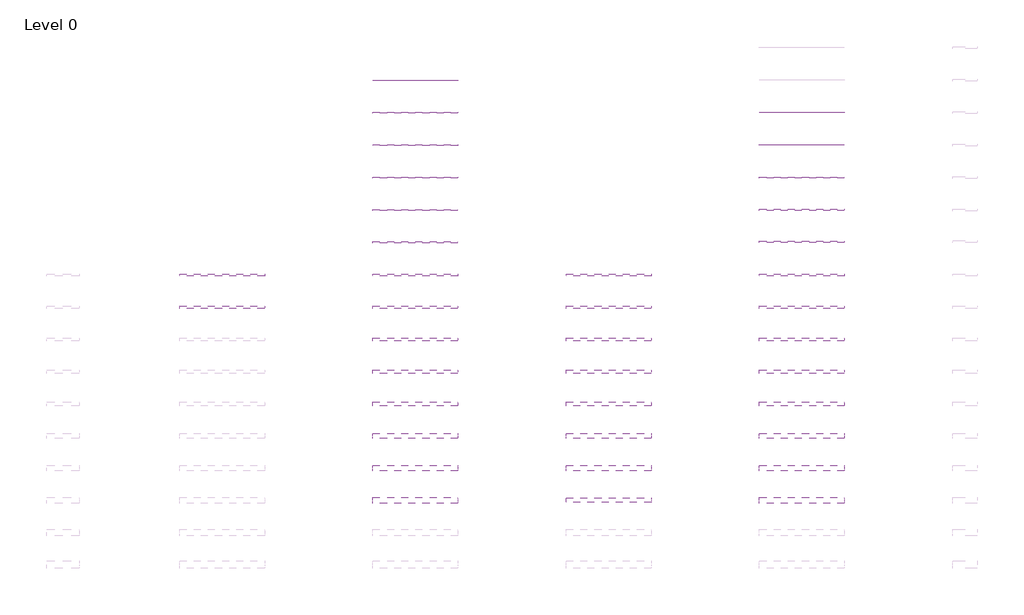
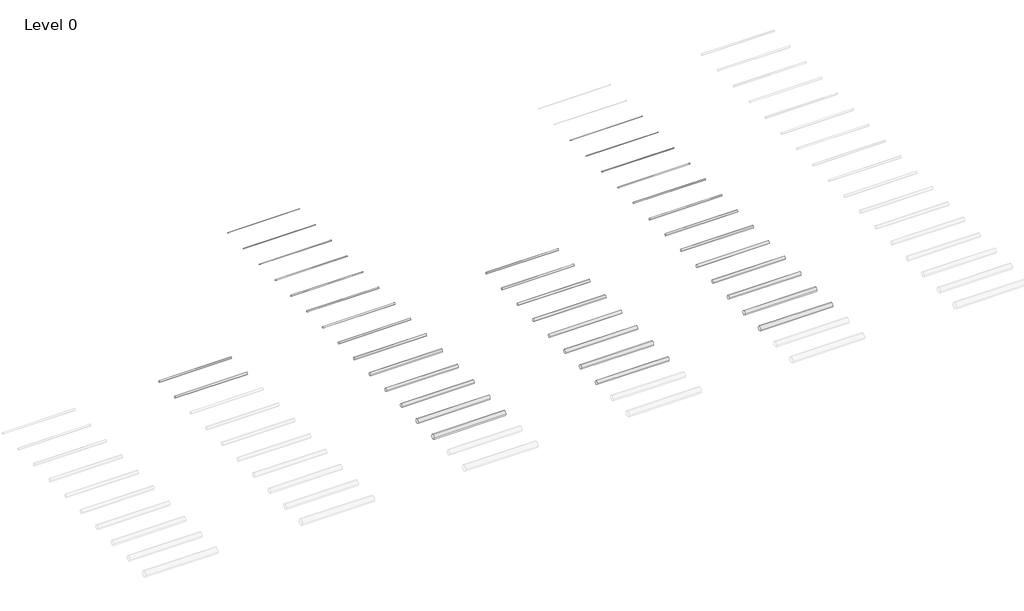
# One storey, part 3 of 4: 37 pipe segments.
"""IFC4 building model written with IfcOpenShell, lengths in millimetres."""

from ifc_helpers import new_model, si_unit, point, frame, frame_2d, origin, place, context, project, spatial, circle_curve, trimmed, segment, composite_curve, outline, extrude, element, save

model = new_model("IFC4")

# Units and contexts
model_context = context("Model", 3, world=origin())
ifc_project = project(units=[si_unit("LENGTHUNIT", "METRE", prefix="MILLI")], contexts=[model_context])

# Site, building, storey
site = spatial("IfcSite", under=ifc_project)
building = spatial("IfcBuilding", under=site)
storey = spatial("IfcBuildingStorey", under=building, Name="Level 0", Elevation=0.0)

# Pipe segments
placement = place(None, origin())
element("IfcPipeSegment", 1, ObjectType="Plumbing_Pipes_Pexgol_Cross-Linked-Polyethylene_Class-12", at=placement, inside=storey, context=model_context, shape_type="SweptSolid", body=[
    extrude(outline(composite_curve([segment(trimmed(circle_curve(frame_2d((-8091.7457436, 2750.0)), 31.5), [point((-8123.2457436, 2750.0))], [point((-8091.7457436, 2781.5))], False, "CARTESIAN"), True, "CONTINUOUS"), segment(trimmed(circle_curve(frame_2d((-8091.7457436, 2750.0)), 31.5), [point((-8091.7457436, 2781.5))], [point((-8060.2457436, 2750.0))], False, "CARTESIAN"), True, "CONTINUOUS"), segment(trimmed(circle_curve(frame_2d((-8091.7457436, 2750.0)), 31.5), [point((-8060.2457436, 2750.0))], [point((-8091.7457436, 2718.5))], False, "CARTESIAN"), True, "CONTINUOUS"), segment(trimmed(circle_curve(frame_2d((-8091.7457436, 2750.0)), 31.5), [point((-8091.7457436, 2718.5))], [point((-8123.2457436, 2750.0))], False, "CARTESIAN"), True, "CONTINUOUS")], self_intersect=False)), frame((11158.0416447, 0.0, 0.0), z_axis=(1.0, 0.0, 0.0), x_axis=(0.0, 1.0, 0.0)), (0.0, 0.0, 1.0), 2640.0),
])
element("IfcPipeSegment", 2, ObjectType="Plumbing_Pipes_Pexgol_Cross-Linked-Polyethylene_Class-12", at=placement, inside=storey, context=model_context, shape_type="SweptSolid", body=[
    extrude(outline(composite_curve([segment(trimmed(circle_curve(frame_2d((-9091.7457436, 2750.0)), 37.5), [point((-9129.2457436, 2750.0))], [point((-9091.7457436, 2787.5))], False, "CARTESIAN"), True, "CONTINUOUS"), segment(trimmed(circle_curve(frame_2d((-9091.7457436, 2750.0)), 37.5), [point((-9091.7457436, 2787.5))], [point((-9054.2457436, 2750.0))], False, "CARTESIAN"), True, "CONTINUOUS"), segment(trimmed(circle_curve(frame_2d((-9091.7457436, 2750.0)), 37.5), [point((-9054.2457436, 2750.0))], [point((-9091.7457436, 2712.5))], False, "CARTESIAN"), True, "CONTINUOUS"), segment(trimmed(circle_curve(frame_2d((-9091.7457436, 2750.0)), 37.5), [point((-9091.7457436, 2712.5))], [point((-9129.2457436, 2750.0))], False, "CARTESIAN"), True, "CONTINUOUS")], self_intersect=False)), frame((11158.0416447, 0.0, 0.0), z_axis=(1.0, 0.0, 0.0), x_axis=(0.0, 1.0, 0.0)), (0.0, 0.0, 1.0), 2640.0),
])
element("IfcPipeSegment", 3, ObjectType="Plumbing_Pipes_Pexgol_Cross-Linked-Polyethylene_Class-15", at=placement, inside=storey, context=model_context, shape_type="SweptSolid", body=[
    extrude(outline(composite_curve([segment(trimmed(circle_curve(frame_2d((-8091.7457436, 2750.0)), 31.5), [point((-8123.2457436, 2750.0))], [point((-8091.7457436, 2781.5))], False, "CARTESIAN"), True, "CONTINUOUS"), segment(trimmed(circle_curve(frame_2d((-8091.7457436, 2750.0)), 31.5), [point((-8091.7457436, 2781.5))], [point((-8060.2457436, 2750.0))], False, "CARTESIAN"), True, "CONTINUOUS"), segment(trimmed(circle_curve(frame_2d((-8091.7457436, 2750.0)), 31.5), [point((-8060.2457436, 2750.0))], [point((-8091.7457436, 2718.5))], False, "CARTESIAN"), True, "CONTINUOUS"), segment(trimmed(circle_curve(frame_2d((-8091.7457436, 2750.0)), 31.5), [point((-8091.7457436, 2718.5))], [point((-8123.2457436, 2750.0))], False, "CARTESIAN"), True, "CONTINUOUS")], self_intersect=False)), frame((17158.0416447, 0.0, 0.0), z_axis=(1.0, 0.0, 0.0), x_axis=(0.0, 1.0, 0.0)), (0.0, 0.0, 1.0), 2640.0),
])
element("IfcPipeSegment", 4, ObjectType="Plumbing_Pipes_Pexgol_Cross-Linked-Polyethylene_Class-15", at=placement, inside=storey, context=model_context, shape_type="SweptSolid", body=[
    extrude(outline(composite_curve([segment(trimmed(circle_curve(frame_2d((-9091.7457436, 2750.0)), 37.5), [point((-9129.2457436, 2750.0))], [point((-9091.7457436, 2787.5))], False, "CARTESIAN"), True, "CONTINUOUS"), segment(trimmed(circle_curve(frame_2d((-9091.7457436, 2750.0)), 37.5), [point((-9091.7457436, 2787.5))], [point((-9054.2457436, 2750.0))], False, "CARTESIAN"), True, "CONTINUOUS"), segment(trimmed(circle_curve(frame_2d((-9091.7457436, 2750.0)), 37.5), [point((-9054.2457436, 2750.0))], [point((-9091.7457436, 2712.5))], False, "CARTESIAN"), True, "CONTINUOUS"), segment(trimmed(circle_curve(frame_2d((-9091.7457436, 2750.0)), 37.5), [point((-9091.7457436, 2712.5))], [point((-9129.2457436, 2750.0))], False, "CARTESIAN"), True, "CONTINUOUS")], self_intersect=False)), frame((17158.0416447, 0.0, 0.0), z_axis=(1.0, 0.0, 0.0), x_axis=(0.0, 1.0, 0.0)), (0.0, 0.0, 1.0), 2640.0),
])
element("IfcPipeSegment", 5, ObjectType="Plumbing_Pipes_Pexgol_Cross-Linked-Polyethylene_Class-15", at=placement, inside=storey, context=model_context, shape_type="SweptSolid", body=[
    extrude(outline(composite_curve([segment(trimmed(circle_curve(frame_2d((-10091.7457436, 2750.0)), 45.0), [point((-10136.7457436, 2750.0))], [point((-10091.7457436, 2795.0))], False, "CARTESIAN"), True, "CONTINUOUS"), segment(trimmed(circle_curve(frame_2d((-10091.7457436, 2750.0)), 45.0), [point((-10091.7457436, 2795.0))], [point((-10046.7457436, 2750.0))], False, "CARTESIAN"), True, "CONTINUOUS"), segment(trimmed(circle_curve(frame_2d((-10091.7457436, 2750.0)), 45.0), [point((-10046.7457436, 2750.0))], [point((-10091.7457436, 2705.0))], False, "CARTESIAN"), True, "CONTINUOUS"), segment(trimmed(circle_curve(frame_2d((-10091.7457436, 2750.0)), 45.0), [point((-10091.7457436, 2705.0))], [point((-10136.7457436, 2750.0))], False, "CARTESIAN"), True, "CONTINUOUS")], self_intersect=False)), frame((17158.0416447, 0.0, 0.0), z_axis=(1.0, 0.0, 0.0), x_axis=(0.0, 1.0, 0.0)), (0.0, 0.0, 1.0), 2640.0),
])
element("IfcPipeSegment", 6, ObjectType="Plumbing_Pipes_Pexgol_Cross-Linked-Polyethylene_Class-15", at=placement, inside=storey, context=model_context, shape_type="SweptSolid", body=[
    extrude(outline(composite_curve([segment(trimmed(circle_curve(frame_2d((-11091.7457436, 2750.0)), 55.0), [point((-11146.7457436, 2750.0))], [point((-11091.7457436, 2805.0))], False, "CARTESIAN"), True, "CONTINUOUS"), segment(trimmed(circle_curve(frame_2d((-11091.7457436, 2750.0)), 55.0), [point((-11091.7457436, 2805.0))], [point((-11036.7457436, 2750.0))], False, "CARTESIAN"), True, "CONTINUOUS"), segment(trimmed(circle_curve(frame_2d((-11091.7457436, 2750.0)), 55.0), [point((-11036.7457436, 2750.0))], [point((-11091.7457436, 2695.0))], False, "CARTESIAN"), True, "CONTINUOUS"), segment(trimmed(circle_curve(frame_2d((-11091.7457436, 2750.0)), 55.0), [point((-11091.7457436, 2695.0))], [point((-11146.7457436, 2750.0))], False, "CARTESIAN"), True, "CONTINUOUS")], self_intersect=False)), frame((17158.0416447, 0.0, 0.0), z_axis=(1.0, 0.0, 0.0), x_axis=(0.0, 1.0, 0.0)), (0.0, 0.0, 1.0), 2640.0),
])
element("IfcPipeSegment", 7, ObjectType="Plumbing_Pipes_Pexgol_Cross-Linked-Polyethylene_Class-15", at=placement, inside=storey, context=model_context, shape_type="SweptSolid", body=[
    extrude(outline(composite_curve([segment(trimmed(circle_curve(frame_2d((-12091.7457436, 2750.0)), 62.5), [point((-12154.2457436, 2750.0))], [point((-12091.7457436, 2812.5))], False, "CARTESIAN"), True, "CONTINUOUS"), segment(trimmed(circle_curve(frame_2d((-12091.7457436, 2750.0)), 62.5), [point((-12091.7457436, 2812.5))], [point((-12029.2457436, 2750.0))], False, "CARTESIAN"), True, "CONTINUOUS"), segment(trimmed(circle_curve(frame_2d((-12091.7457436, 2750.0)), 62.5), [point((-12029.2457436, 2750.0))], [point((-12091.7457436, 2687.5))], False, "CARTESIAN"), True, "CONTINUOUS"), segment(trimmed(circle_curve(frame_2d((-12091.7457436, 2750.0)), 62.5), [point((-12091.7457436, 2687.5))], [point((-12154.2457436, 2750.0))], False, "CARTESIAN"), True, "CONTINUOUS")], self_intersect=False)), frame((17158.0416447, 0.0, 0.0), z_axis=(1.0, 0.0, 0.0), x_axis=(0.0, 1.0, 0.0)), (0.0, 0.0, 1.0), 2640.0),
])
element("IfcPipeSegment", 8, ObjectType="Plumbing_Pipes_Pexgol_Cross-Linked-Polyethylene_Class-15", at=placement, inside=storey, context=model_context, shape_type="SweptSolid", body=[
    extrude(outline(composite_curve([segment(trimmed(circle_curve(frame_2d((-13091.7457436, 2750.0)), 70.0), [point((-13161.7457436, 2750.0))], [point((-13091.7457436, 2820.0))], False, "CARTESIAN"), True, "CONTINUOUS"), segment(trimmed(circle_curve(frame_2d((-13091.7457436, 2750.0)), 70.0), [point((-13091.7457436, 2820.0))], [point((-13021.7457436, 2750.0))], False, "CARTESIAN"), True, "CONTINUOUS"), segment(trimmed(circle_curve(frame_2d((-13091.7457436, 2750.0)), 70.0), [point((-13021.7457436, 2750.0))], [point((-13091.7457436, 2680.0))], False, "CARTESIAN"), True, "CONTINUOUS"), segment(trimmed(circle_curve(frame_2d((-13091.7457436, 2750.0)), 70.0), [point((-13091.7457436, 2680.0))], [point((-13161.7457436, 2750.0))], False, "CARTESIAN"), True, "CONTINUOUS")], self_intersect=False)), frame((17158.0416447, 0.0, 0.0), z_axis=(1.0, 0.0, 0.0), x_axis=(0.0, 1.0, 0.0)), (0.0, 0.0, 1.0), 2640.0),
])
element("IfcPipeSegment", 9, ObjectType="Plumbing_Pipes_Pexgol_Cross-Linked-Polyethylene_Class-15", at=placement, inside=storey, context=model_context, shape_type="SweptSolid", body=[
    extrude(outline(composite_curve([segment(trimmed(circle_curve(frame_2d((-14091.7457436, 2750.0)), 80.0), [point((-14171.7457436, 2750.0))], [point((-14091.7457436, 2830.0))], False, "CARTESIAN"), True, "CONTINUOUS"), segment(trimmed(circle_curve(frame_2d((-14091.7457436, 2750.0)), 80.0), [point((-14091.7457436, 2830.0))], [point((-14011.7457436, 2750.0))], False, "CARTESIAN"), True, "CONTINUOUS"), segment(trimmed(circle_curve(frame_2d((-14091.7457436, 2750.0)), 80.0), [point((-14011.7457436, 2750.0))], [point((-14091.7457436, 2670.0))], False, "CARTESIAN"), True, "CONTINUOUS"), segment(trimmed(circle_curve(frame_2d((-14091.7457436, 2750.0)), 80.0), [point((-14091.7457436, 2670.0))], [point((-14171.7457436, 2750.0))], False, "CARTESIAN"), True, "CONTINUOUS")], self_intersect=False)), frame((17158.0416447, 0.0, 0.0), z_axis=(1.0, 0.0, 0.0), x_axis=(0.0, 1.0, 0.0)), (0.0, 0.0, 1.0), 2640.0),
])
element("IfcPipeSegment", 10, ObjectType="Plumbing_Pipes_Pexgol_Cross-Linked-Polyethylene_Class-15", at=placement, inside=storey, context=model_context, shape_type="SweptSolid", body=[
    extrude(outline(composite_curve([segment(trimmed(circle_curve(frame_2d((-15091.7457436, 2750.0)), 90.0), [point((-15181.7457436, 2750.0))], [point((-15091.7457436, 2840.0))], False, "CARTESIAN"), True, "CONTINUOUS"), segment(trimmed(circle_curve(frame_2d((-15091.7457436, 2750.0)), 90.0), [point((-15091.7457436, 2840.0))], [point((-15001.7457436, 2750.0))], False, "CARTESIAN"), True, "CONTINUOUS"), segment(trimmed(circle_curve(frame_2d((-15091.7457436, 2750.0)), 90.0), [point((-15001.7457436, 2750.0))], [point((-15091.7457436, 2660.0))], False, "CARTESIAN"), True, "CONTINUOUS"), segment(trimmed(circle_curve(frame_2d((-15091.7457436, 2750.0)), 90.0), [point((-15091.7457436, 2660.0))], [point((-15181.7457436, 2750.0))], False, "CARTESIAN"), True, "CONTINUOUS")], self_intersect=False)), frame((17158.0416447, 0.0, 0.0), z_axis=(1.0, 0.0, 0.0), x_axis=(0.0, 1.0, 0.0)), (0.0, 0.0, 1.0), 2640.0),
])
element("IfcPipeSegment", 11, ObjectType="Plumbing_Pipes_Pexgol_Cross-Linked-Polyethylene_Class-19", at=placement, inside=storey, context=model_context, shape_type="SweptSolid", body=[
    extrude(outline(composite_curve([segment(trimmed(circle_curve(frame_2d((-8091.7457436, 2750.0)), 31.5), [point((-8123.2457436, 2750.0))], [point((-8091.7457436, 2781.5))], False, "CARTESIAN"), True, "CONTINUOUS"), segment(trimmed(circle_curve(frame_2d((-8091.7457436, 2750.0)), 31.5), [point((-8091.7457436, 2781.5))], [point((-8060.2457436, 2750.0))], False, "CARTESIAN"), True, "CONTINUOUS"), segment(trimmed(circle_curve(frame_2d((-8091.7457436, 2750.0)), 31.5), [point((-8060.2457436, 2750.0))], [point((-8091.7457436, 2718.5))], False, "CARTESIAN"), True, "CONTINUOUS"), segment(trimmed(circle_curve(frame_2d((-8091.7457436, 2750.0)), 31.5), [point((-8091.7457436, 2718.5))], [point((-8123.2457436, 2750.0))], False, "CARTESIAN"), True, "CONTINUOUS")], self_intersect=False)), frame((23158.0416447, 0.0, 0.0), z_axis=(1.0, 0.0, 0.0), x_axis=(0.0, 1.0, 0.0)), (0.0, 0.0, 1.0), 2640.0),
])
element("IfcPipeSegment", 12, ObjectType="Plumbing_Pipes_Pexgol_Cross-Linked-Polyethylene_Class-19", at=placement, inside=storey, context=model_context, shape_type="SweptSolid", body=[
    extrude(outline(composite_curve([segment(trimmed(circle_curve(frame_2d((-9091.7457436, 2750.0)), 37.5), [point((-9129.2457436, 2750.0))], [point((-9091.7457436, 2787.5))], False, "CARTESIAN"), True, "CONTINUOUS"), segment(trimmed(circle_curve(frame_2d((-9091.7457436, 2750.0)), 37.5), [point((-9091.7457436, 2787.5))], [point((-9054.2457436, 2750.0))], False, "CARTESIAN"), True, "CONTINUOUS"), segment(trimmed(circle_curve(frame_2d((-9091.7457436, 2750.0)), 37.5), [point((-9054.2457436, 2750.0))], [point((-9091.7457436, 2712.5))], False, "CARTESIAN"), True, "CONTINUOUS"), segment(trimmed(circle_curve(frame_2d((-9091.7457436, 2750.0)), 37.5), [point((-9091.7457436, 2712.5))], [point((-9129.2457436, 2750.0))], False, "CARTESIAN"), True, "CONTINUOUS")], self_intersect=False)), frame((23158.0416447, 0.0, 0.0), z_axis=(1.0, 0.0, 0.0), x_axis=(0.0, 1.0, 0.0)), (0.0, 0.0, 1.0), 2640.0),
])
element("IfcPipeSegment", 13, ObjectType="Plumbing_Pipes_Pexgol_Cross-Linked-Polyethylene_Class-19", at=placement, inside=storey, context=model_context, shape_type="SweptSolid", body=[
    extrude(outline(composite_curve([segment(trimmed(circle_curve(frame_2d((-10091.7457436, 2750.0)), 45.0), [point((-10136.7457436, 2750.0))], [point((-10091.7457436, 2795.0))], False, "CARTESIAN"), True, "CONTINUOUS"), segment(trimmed(circle_curve(frame_2d((-10091.7457436, 2750.0)), 45.0), [point((-10091.7457436, 2795.0))], [point((-10046.7457436, 2750.0))], False, "CARTESIAN"), True, "CONTINUOUS"), segment(trimmed(circle_curve(frame_2d((-10091.7457436, 2750.0)), 45.0), [point((-10046.7457436, 2750.0))], [point((-10091.7457436, 2705.0))], False, "CARTESIAN"), True, "CONTINUOUS"), segment(trimmed(circle_curve(frame_2d((-10091.7457436, 2750.0)), 45.0), [point((-10091.7457436, 2705.0))], [point((-10136.7457436, 2750.0))], False, "CARTESIAN"), True, "CONTINUOUS")], self_intersect=False)), frame((23158.0416447, 0.0, 0.0), z_axis=(1.0, 0.0, 0.0), x_axis=(0.0, 1.0, 0.0)), (0.0, 0.0, 1.0), 2640.0),
])
element("IfcPipeSegment", 14, ObjectType="Plumbing_Pipes_Pexgol_Cross-Linked-Polyethylene_Class-19", at=placement, inside=storey, context=model_context, shape_type="SweptSolid", body=[
    extrude(outline(composite_curve([segment(trimmed(circle_curve(frame_2d((-11091.7457436, 2750.0)), 55.0), [point((-11146.7457436, 2750.0))], [point((-11091.7457436, 2805.0))], False, "CARTESIAN"), True, "CONTINUOUS"), segment(trimmed(circle_curve(frame_2d((-11091.7457436, 2750.0)), 55.0), [point((-11091.7457436, 2805.0))], [point((-11036.7457436, 2750.0))], False, "CARTESIAN"), True, "CONTINUOUS"), segment(trimmed(circle_curve(frame_2d((-11091.7457436, 2750.0)), 55.0), [point((-11036.7457436, 2750.0))], [point((-11091.7457436, 2695.0))], False, "CARTESIAN"), True, "CONTINUOUS"), segment(trimmed(circle_curve(frame_2d((-11091.7457436, 2750.0)), 55.0), [point((-11091.7457436, 2695.0))], [point((-11146.7457436, 2750.0))], False, "CARTESIAN"), True, "CONTINUOUS")], self_intersect=False)), frame((23158.0416447, 0.0, 0.0), z_axis=(1.0, 0.0, 0.0), x_axis=(0.0, 1.0, 0.0)), (0.0, 0.0, 1.0), 2640.0),
])
element("IfcPipeSegment", 15, ObjectType="Plumbing_Pipes_Pexgol_Cross-Linked-Polyethylene_Class-19", at=placement, inside=storey, context=model_context, shape_type="SweptSolid", body=[
    extrude(outline(composite_curve([segment(trimmed(circle_curve(frame_2d((-12091.7457436, 2750.0)), 62.5), [point((-12154.2457436, 2750.0))], [point((-12091.7457436, 2812.5))], False, "CARTESIAN"), True, "CONTINUOUS"), segment(trimmed(circle_curve(frame_2d((-12091.7457436, 2750.0)), 62.5), [point((-12091.7457436, 2812.5))], [point((-12029.2457436, 2750.0))], False, "CARTESIAN"), True, "CONTINUOUS"), segment(trimmed(circle_curve(frame_2d((-12091.7457436, 2750.0)), 62.5), [point((-12029.2457436, 2750.0))], [point((-12091.7457436, 2687.5))], False, "CARTESIAN"), True, "CONTINUOUS"), segment(trimmed(circle_curve(frame_2d((-12091.7457436, 2750.0)), 62.5), [point((-12091.7457436, 2687.5))], [point((-12154.2457436, 2750.0))], False, "CARTESIAN"), True, "CONTINUOUS")], self_intersect=False)), frame((23158.0416447, 0.0, 0.0), z_axis=(1.0, 0.0, 0.0), x_axis=(0.0, 1.0, 0.0)), (0.0, 0.0, 1.0), 2640.0),
])
element("IfcPipeSegment", 16, ObjectType="Plumbing_Pipes_Pexgol_Cross-Linked-Polyethylene_Class-19", at=placement, inside=storey, context=model_context, shape_type="SweptSolid", body=[
    extrude(outline(composite_curve([segment(trimmed(circle_curve(frame_2d((-13091.7457436, 2750.0)), 70.0), [point((-13161.7457436, 2750.0))], [point((-13091.7457436, 2820.0))], False, "CARTESIAN"), True, "CONTINUOUS"), segment(trimmed(circle_curve(frame_2d((-13091.7457436, 2750.0)), 70.0), [point((-13091.7457436, 2820.0))], [point((-13021.7457436, 2750.0))], False, "CARTESIAN"), True, "CONTINUOUS"), segment(trimmed(circle_curve(frame_2d((-13091.7457436, 2750.0)), 70.0), [point((-13021.7457436, 2750.0))], [point((-13091.7457436, 2680.0))], False, "CARTESIAN"), True, "CONTINUOUS"), segment(trimmed(circle_curve(frame_2d((-13091.7457436, 2750.0)), 70.0), [point((-13091.7457436, 2680.0))], [point((-13161.7457436, 2750.0))], False, "CARTESIAN"), True, "CONTINUOUS")], self_intersect=False)), frame((23158.0416447, 0.0, 0.0), z_axis=(1.0, 0.0, 0.0), x_axis=(0.0, 1.0, 0.0)), (0.0, 0.0, 1.0), 2640.0),
])
element("IfcPipeSegment", 17, ObjectType="Plumbing_Pipes_Pexgol_Cross-Linked-Polyethylene_Class-19", at=placement, inside=storey, context=model_context, shape_type="SweptSolid", body=[
    extrude(outline(composite_curve([segment(trimmed(circle_curve(frame_2d((-14091.7457436, 2750.0)), 80.0), [point((-14171.7457436, 2750.0))], [point((-14091.7457436, 2830.0))], False, "CARTESIAN"), True, "CONTINUOUS"), segment(trimmed(circle_curve(frame_2d((-14091.7457436, 2750.0)), 80.0), [point((-14091.7457436, 2830.0))], [point((-14011.7457436, 2750.0))], False, "CARTESIAN"), True, "CONTINUOUS"), segment(trimmed(circle_curve(frame_2d((-14091.7457436, 2750.0)), 80.0), [point((-14011.7457436, 2750.0))], [point((-14091.7457436, 2670.0))], False, "CARTESIAN"), True, "CONTINUOUS"), segment(trimmed(circle_curve(frame_2d((-14091.7457436, 2750.0)), 80.0), [point((-14091.7457436, 2670.0))], [point((-14171.7457436, 2750.0))], False, "CARTESIAN"), True, "CONTINUOUS")], self_intersect=False)), frame((23158.0416447, 0.0, 0.0), z_axis=(1.0, 0.0, 0.0), x_axis=(0.0, 1.0, 0.0)), (0.0, 0.0, 1.0), 2640.0),
])
element("IfcPipeSegment", 18, ObjectType="Plumbing_Pipes_Pexgol_Cross-Linked-Polyethylene_Class-19", at=placement, inside=storey, context=model_context, shape_type="SweptSolid", body=[
    extrude(outline(composite_curve([segment(trimmed(circle_curve(frame_2d((-15091.7457436, 2750.0)), 69.9), [point((-15161.6457436, 2750.0))], [point((-15091.7457436, 2819.9))], False, "CARTESIAN"), True, "CONTINUOUS"), segment(trimmed(circle_curve(frame_2d((-15091.7457436, 2750.0)), 69.9), [point((-15091.7457436, 2819.9))], [point((-15021.8457436, 2750.0))], False, "CARTESIAN"), True, "CONTINUOUS"), segment(trimmed(circle_curve(frame_2d((-15091.7457436, 2750.0)), 69.9), [point((-15021.8457436, 2750.0))], [point((-15091.7457436, 2680.1))], False, "CARTESIAN"), True, "CONTINUOUS"), segment(trimmed(circle_curve(frame_2d((-15091.7457436, 2750.0)), 69.9), [point((-15091.7457436, 2680.1))], [point((-15161.6457436, 2750.0))], False, "CARTESIAN"), True, "CONTINUOUS")], self_intersect=False)), frame((23158.0416447, 0.0, 0.0), z_axis=(1.0, 0.0, 0.0), x_axis=(0.0, 1.0, 0.0)), (0.0, 0.0, 1.0), 2640.0),
])
element("IfcPipeSegment", 19, ObjectType="Plumbing_Pipes_Pexgol_Cross-Linked-Polyethylene_Class-15", at=placement, inside=storey, context=model_context, shape_type="SweptSolid", body=[
    extrude(outline(composite_curve([segment(trimmed(circle_curve(frame_2d((-7081.7457436, 2750.0)), 25.0), [point((-7106.7457436, 2750.0))], [point((-7081.7457436, 2775.0))], False, "CARTESIAN"), True, "CONTINUOUS"), segment(trimmed(circle_curve(frame_2d((-7081.7457436, 2750.0)), 25.0), [point((-7081.7457436, 2775.0))], [point((-7056.7457436, 2750.0))], False, "CARTESIAN"), True, "CONTINUOUS"), segment(trimmed(circle_curve(frame_2d((-7081.7457436, 2750.0)), 25.0), [point((-7056.7457436, 2750.0))], [point((-7081.7457436, 2725.0))], False, "CARTESIAN"), True, "CONTINUOUS"), segment(trimmed(circle_curve(frame_2d((-7081.7457436, 2750.0)), 25.0), [point((-7081.7457436, 2725.0))], [point((-7106.7457436, 2750.0))], False, "CARTESIAN"), True, "CONTINUOUS")], self_intersect=False)), frame((17158.0416447, 0.0, 0.0), z_axis=(1.0, 0.0, 0.0), x_axis=(0.0, 1.0, 0.0)), (0.0, 0.0, 1.0), 2640.0),
])
element("IfcPipeSegment", 20, ObjectType="Plumbing_Pipes_Pexgol_Cross-Linked-Polyethylene_Class-15", at=placement, inside=storey, context=model_context, shape_type="SweptSolid", body=[
    extrude(outline(composite_curve([segment(trimmed(circle_curve(frame_2d((-6074.2457436, 2750.0)), 20.0), [point((-6094.2457436, 2750.0))], [point((-6074.2457436, 2770.0))], False, "CARTESIAN"), True, "CONTINUOUS"), segment(trimmed(circle_curve(frame_2d((-6074.2457436, 2750.0)), 20.0), [point((-6074.2457436, 2770.0))], [point((-6054.2457436, 2750.0))], False, "CARTESIAN"), True, "CONTINUOUS"), segment(trimmed(circle_curve(frame_2d((-6074.2457436, 2750.0)), 20.0), [point((-6054.2457436, 2750.0))], [point((-6074.2457436, 2730.0))], False, "CARTESIAN"), True, "CONTINUOUS"), segment(trimmed(circle_curve(frame_2d((-6074.2457436, 2750.0)), 20.0), [point((-6074.2457436, 2730.0))], [point((-6094.2457436, 2750.0))], False, "CARTESIAN"), True, "CONTINUOUS")], self_intersect=False)), frame((17158.0416447, 0.0, 0.0), z_axis=(1.0, 0.0, 0.0), x_axis=(0.0, 1.0, 0.0)), (0.0, 0.0, 1.0), 2640.0),
])
element("IfcPipeSegment", 21, ObjectType="Plumbing_Pipes_Pexgol_Cross-Linked-Polyethylene_Class-15", at=placement, inside=storey, context=model_context, shape_type="SweptSolid", body=[
    extrude(outline(composite_curve([segment(trimmed(circle_curve(frame_2d((-5066.7457436, 2750.0)), 16.0), [point((-5082.7457436, 2750.0))], [point((-5066.7457436, 2766.0))], False, "CARTESIAN"), True, "CONTINUOUS"), segment(trimmed(circle_curve(frame_2d((-5066.7457436, 2750.0)), 16.0), [point((-5066.7457436, 2766.0))], [point((-5050.7457436, 2750.0))], False, "CARTESIAN"), True, "CONTINUOUS"), segment(trimmed(circle_curve(frame_2d((-5066.7457436, 2750.0)), 16.0), [point((-5050.7457436, 2750.0))], [point((-5066.7457436, 2734.0))], False, "CARTESIAN"), True, "CONTINUOUS"), segment(trimmed(circle_curve(frame_2d((-5066.7457436, 2750.0)), 16.0), [point((-5066.7457436, 2734.0))], [point((-5082.7457436, 2750.0))], False, "CARTESIAN"), True, "CONTINUOUS")], self_intersect=False)), frame((17158.0416447, 0.0, 0.0), z_axis=(1.0, 0.0, 0.0), x_axis=(0.0, 1.0, 0.0)), (0.0, 0.0, 1.0), 2640.0),
])
element("IfcPipeSegment", 22, ObjectType="Plumbing_Pipes_Pexgol_Cross-Linked-Polyethylene_Class-15", at=placement, inside=storey, context=model_context, shape_type="SweptSolid", body=[
    extrude(outline(composite_curve([segment(trimmed(circle_curve(frame_2d((-4056.7457436, 2750.0)), 12.5), [point((-4069.2457436, 2750.0))], [point((-4056.7457436, 2762.5))], False, "CARTESIAN"), True, "CONTINUOUS"), segment(trimmed(circle_curve(frame_2d((-4056.7457436, 2750.0)), 12.5), [point((-4056.7457436, 2762.5))], [point((-4044.2457436, 2750.0))], False, "CARTESIAN"), True, "CONTINUOUS"), segment(trimmed(circle_curve(frame_2d((-4056.7457436, 2750.0)), 12.5), [point((-4044.2457436, 2750.0))], [point((-4056.7457436, 2737.5))], False, "CARTESIAN"), True, "CONTINUOUS"), segment(trimmed(circle_curve(frame_2d((-4056.7457436, 2750.0)), 12.5), [point((-4056.7457436, 2737.5))], [point((-4069.2457436, 2750.0))], False, "CARTESIAN"), True, "CONTINUOUS")], self_intersect=False)), frame((17158.0416447, 0.0, 0.0), z_axis=(1.0, 0.0, 0.0), x_axis=(0.0, 1.0, 0.0)), (0.0, 0.0, 1.0), 2640.0),
])
element("IfcPipeSegment", 23, ObjectType="Plumbing_Pipes_Pexgol_Cross-Linked-Polyethylene_Class-15", at=placement, inside=storey, context=model_context, shape_type="SweptSolid", body=[
    extrude(outline(composite_curve([segment(trimmed(circle_curve(frame_2d((-3049.2457436, 2750.0)), 10.0), [point((-3059.2457436, 2750.0))], [point((-3049.2457436, 2760.0))], False, "CARTESIAN"), True, "CONTINUOUS"), segment(trimmed(circle_curve(frame_2d((-3049.2457436, 2750.0)), 10.0), [point((-3049.2457436, 2760.0))], [point((-3039.2457436, 2750.0))], False, "CARTESIAN"), True, "CONTINUOUS"), segment(trimmed(circle_curve(frame_2d((-3049.2457436, 2750.0)), 10.0), [point((-3039.2457436, 2750.0))], [point((-3049.2457436, 2740.0))], False, "CARTESIAN"), True, "CONTINUOUS"), segment(trimmed(circle_curve(frame_2d((-3049.2457436, 2750.0)), 10.0), [point((-3049.2457436, 2740.0))], [point((-3059.2457436, 2750.0))], False, "CARTESIAN"), True, "CONTINUOUS")], self_intersect=False)), frame((17158.0416447, 0.0, 0.0), z_axis=(1.0, 0.0, 0.0), x_axis=(0.0, 1.0, 0.0)), (0.0, 0.0, 1.0), 2640.0),
])
element("IfcPipeSegment", 24, ObjectType="Plumbing_Pipes_Pexgol_Cross-Linked-Polyethylene_Class-15", at=placement, inside=storey, context=model_context, shape_type="SweptSolid", body=[
    extrude(outline(composite_curve([segment(trimmed(circle_curve(frame_2d((-2043.2457436, 2750.0)), 8.0), [point((-2051.2457436, 2750.0))], [point((-2043.2457436, 2758.0))], False, "CARTESIAN"), True, "CONTINUOUS"), segment(trimmed(circle_curve(frame_2d((-2043.2457436, 2750.0)), 8.0), [point((-2043.2457436, 2758.0))], [point((-2035.2457436, 2750.0))], False, "CARTESIAN"), True, "CONTINUOUS"), segment(trimmed(circle_curve(frame_2d((-2043.2457436, 2750.0)), 8.0), [point((-2035.2457436, 2750.0))], [point((-2043.2457436, 2742.0))], False, "CARTESIAN"), True, "CONTINUOUS"), segment(trimmed(circle_curve(frame_2d((-2043.2457436, 2750.0)), 8.0), [point((-2043.2457436, 2742.0))], [point((-2051.2457436, 2750.0))], False, "CARTESIAN"), True, "CONTINUOUS")], self_intersect=False)), frame((17158.0416447, 0.0, 0.0), z_axis=(1.0, 0.0, 0.0), x_axis=(0.0, 1.0, 0.0)), (0.0, 0.0, 1.0), 2640.0),
])
element("IfcPipeSegment", 25, ObjectType="Plumbing_Pipes_Pexgol_Cross-Linked-Polyethylene_Class-24", at=placement, inside=storey, context=model_context, shape_type="SweptSolid", body=[
    extrude(outline(composite_curve([segment(trimmed(circle_curve(frame_2d((-8091.7457436, 2750.0)), 31.5), [point((-8123.2457436, 2750.0))], [point((-8091.7457436, 2781.5))], False, "CARTESIAN"), True, "CONTINUOUS"), segment(trimmed(circle_curve(frame_2d((-8091.7457436, 2750.0)), 31.5), [point((-8091.7457436, 2781.5))], [point((-8060.2457436, 2750.0))], False, "CARTESIAN"), True, "CONTINUOUS"), segment(trimmed(circle_curve(frame_2d((-8091.7457436, 2750.0)), 31.5), [point((-8060.2457436, 2750.0))], [point((-8091.7457436, 2718.5))], False, "CARTESIAN"), True, "CONTINUOUS"), segment(trimmed(circle_curve(frame_2d((-8091.7457436, 2750.0)), 31.5), [point((-8091.7457436, 2718.5))], [point((-8123.2457436, 2750.0))], False, "CARTESIAN"), True, "CONTINUOUS")], self_intersect=False)), frame((29158.0416447, 0.0, 0.0), z_axis=(1.0, 0.0, 0.0), x_axis=(0.0, 1.0, 0.0)), (0.0, 0.0, 1.0), 2640.0),
])
element("IfcPipeSegment", 26, ObjectType="Plumbing_Pipes_Pexgol_Cross-Linked-Polyethylene_Class-24", at=placement, inside=storey, context=model_context, shape_type="SweptSolid", body=[
    extrude(outline(composite_curve([segment(trimmed(circle_curve(frame_2d((-9091.7457436, 2750.0)), 37.5), [point((-9129.2457436, 2750.0))], [point((-9091.7457436, 2787.5))], False, "CARTESIAN"), True, "CONTINUOUS"), segment(trimmed(circle_curve(frame_2d((-9091.7457436, 2750.0)), 37.5), [point((-9091.7457436, 2787.5))], [point((-9054.2457436, 2750.0))], False, "CARTESIAN"), True, "CONTINUOUS"), segment(trimmed(circle_curve(frame_2d((-9091.7457436, 2750.0)), 37.5), [point((-9054.2457436, 2750.0))], [point((-9091.7457436, 2712.5))], False, "CARTESIAN"), True, "CONTINUOUS"), segment(trimmed(circle_curve(frame_2d((-9091.7457436, 2750.0)), 37.5), [point((-9091.7457436, 2712.5))], [point((-9129.2457436, 2750.0))], False, "CARTESIAN"), True, "CONTINUOUS")], self_intersect=False)), frame((29158.0416447, 0.0, 0.0), z_axis=(1.0, 0.0, 0.0), x_axis=(0.0, 1.0, 0.0)), (0.0, 0.0, 1.0), 2640.0),
])
element("IfcPipeSegment", 27, ObjectType="Plumbing_Pipes_Pexgol_Cross-Linked-Polyethylene_Class-24", at=placement, inside=storey, context=model_context, shape_type="SweptSolid", body=[
    extrude(outline(composite_curve([segment(trimmed(circle_curve(frame_2d((-10091.7457436, 2750.0)), 45.0), [point((-10136.7457436, 2750.0))], [point((-10091.7457436, 2795.0))], False, "CARTESIAN"), True, "CONTINUOUS"), segment(trimmed(circle_curve(frame_2d((-10091.7457436, 2750.0)), 45.0), [point((-10091.7457436, 2795.0))], [point((-10046.7457436, 2750.0))], False, "CARTESIAN"), True, "CONTINUOUS"), segment(trimmed(circle_curve(frame_2d((-10091.7457436, 2750.0)), 45.0), [point((-10046.7457436, 2750.0))], [point((-10091.7457436, 2705.0))], False, "CARTESIAN"), True, "CONTINUOUS"), segment(trimmed(circle_curve(frame_2d((-10091.7457436, 2750.0)), 45.0), [point((-10091.7457436, 2705.0))], [point((-10136.7457436, 2750.0))], False, "CARTESIAN"), True, "CONTINUOUS")], self_intersect=False)), frame((29158.0416447, 0.0, 0.0), z_axis=(1.0, 0.0, 0.0), x_axis=(0.0, 1.0, 0.0)), (0.0, 0.0, 1.0), 2640.0),
])
element("IfcPipeSegment", 28, ObjectType="Plumbing_Pipes_Pexgol_Cross-Linked-Polyethylene_Class-24", at=placement, inside=storey, context=model_context, shape_type="SweptSolid", body=[
    extrude(outline(composite_curve([segment(trimmed(circle_curve(frame_2d((-11091.7457436, 2750.0)), 55.0), [point((-11146.7457436, 2750.0))], [point((-11091.7457436, 2805.0))], False, "CARTESIAN"), True, "CONTINUOUS"), segment(trimmed(circle_curve(frame_2d((-11091.7457436, 2750.0)), 55.0), [point((-11091.7457436, 2805.0))], [point((-11036.7457436, 2750.0))], False, "CARTESIAN"), True, "CONTINUOUS"), segment(trimmed(circle_curve(frame_2d((-11091.7457436, 2750.0)), 55.0), [point((-11036.7457436, 2750.0))], [point((-11091.7457436, 2695.0))], False, "CARTESIAN"), True, "CONTINUOUS"), segment(trimmed(circle_curve(frame_2d((-11091.7457436, 2750.0)), 55.0), [point((-11091.7457436, 2695.0))], [point((-11146.7457436, 2750.0))], False, "CARTESIAN"), True, "CONTINUOUS")], self_intersect=False)), frame((29158.0416447, 0.0, 0.0), z_axis=(1.0, 0.0, 0.0), x_axis=(0.0, 1.0, 0.0)), (0.0, 0.0, 1.0), 2640.0),
])
element("IfcPipeSegment", 29, ObjectType="Plumbing_Pipes_Pexgol_Cross-Linked-Polyethylene_Class-24", at=placement, inside=storey, context=model_context, shape_type="SweptSolid", body=[
    extrude(outline(composite_curve([segment(trimmed(circle_curve(frame_2d((-12091.7457436, 2750.0)), 62.5), [point((-12154.2457436, 2750.0))], [point((-12091.7457436, 2812.5))], False, "CARTESIAN"), True, "CONTINUOUS"), segment(trimmed(circle_curve(frame_2d((-12091.7457436, 2750.0)), 62.5), [point((-12091.7457436, 2812.5))], [point((-12029.2457436, 2750.0))], False, "CARTESIAN"), True, "CONTINUOUS"), segment(trimmed(circle_curve(frame_2d((-12091.7457436, 2750.0)), 62.5), [point((-12029.2457436, 2750.0))], [point((-12091.7457436, 2687.5))], False, "CARTESIAN"), True, "CONTINUOUS"), segment(trimmed(circle_curve(frame_2d((-12091.7457436, 2750.0)), 62.5), [point((-12091.7457436, 2687.5))], [point((-12154.2457436, 2750.0))], False, "CARTESIAN"), True, "CONTINUOUS")], self_intersect=False)), frame((29158.0416447, 0.0, 0.0), z_axis=(1.0, 0.0, 0.0), x_axis=(0.0, 1.0, 0.0)), (0.0, 0.0, 1.0), 2640.0),
])
element("IfcPipeSegment", 30, ObjectType="Plumbing_Pipes_Pexgol_Cross-Linked-Polyethylene_Class-24", at=placement, inside=storey, context=model_context, shape_type="SweptSolid", body=[
    extrude(outline(composite_curve([segment(trimmed(circle_curve(frame_2d((-13091.7457436, 2750.0)), 70.0), [point((-13161.7457436, 2750.0))], [point((-13091.7457436, 2820.0))], False, "CARTESIAN"), True, "CONTINUOUS"), segment(trimmed(circle_curve(frame_2d((-13091.7457436, 2750.0)), 70.0), [point((-13091.7457436, 2820.0))], [point((-13021.7457436, 2750.0))], False, "CARTESIAN"), True, "CONTINUOUS"), segment(trimmed(circle_curve(frame_2d((-13091.7457436, 2750.0)), 70.0), [point((-13021.7457436, 2750.0))], [point((-13091.7457436, 2680.0))], False, "CARTESIAN"), True, "CONTINUOUS"), segment(trimmed(circle_curve(frame_2d((-13091.7457436, 2750.0)), 70.0), [point((-13091.7457436, 2680.0))], [point((-13161.7457436, 2750.0))], False, "CARTESIAN"), True, "CONTINUOUS")], self_intersect=False)), frame((29158.0416447, 0.0, 0.0), z_axis=(1.0, 0.0, 0.0), x_axis=(0.0, 1.0, 0.0)), (0.0, 0.0, 1.0), 2640.0),
])
element("IfcPipeSegment", 31, ObjectType="Plumbing_Pipes_Pexgol_Cross-Linked-Polyethylene_Class-24", at=placement, inside=storey, context=model_context, shape_type="SweptSolid", body=[
    extrude(outline(composite_curve([segment(trimmed(circle_curve(frame_2d((-14091.7457436, 2750.0)), 80.0), [point((-14171.7457436, 2750.0))], [point((-14091.7457436, 2830.0))], False, "CARTESIAN"), True, "CONTINUOUS"), segment(trimmed(circle_curve(frame_2d((-14091.7457436, 2750.0)), 80.0), [point((-14091.7457436, 2830.0))], [point((-14011.7457436, 2750.0))], False, "CARTESIAN"), True, "CONTINUOUS"), segment(trimmed(circle_curve(frame_2d((-14091.7457436, 2750.0)), 80.0), [point((-14011.7457436, 2750.0))], [point((-14091.7457436, 2670.0))], False, "CARTESIAN"), True, "CONTINUOUS"), segment(trimmed(circle_curve(frame_2d((-14091.7457436, 2750.0)), 80.0), [point((-14091.7457436, 2670.0))], [point((-14171.7457436, 2750.0))], False, "CARTESIAN"), True, "CONTINUOUS")], self_intersect=False)), frame((29158.0416447, 0.0, 0.0), z_axis=(1.0, 0.0, 0.0), x_axis=(0.0, 1.0, 0.0)), (0.0, 0.0, 1.0), 2640.0),
])
element("IfcPipeSegment", 32, ObjectType="Plumbing_Pipes_Pexgol_Cross-Linked-Polyethylene_Class-24", at=placement, inside=storey, context=model_context, shape_type="SweptSolid", body=[
    extrude(outline(composite_curve([segment(trimmed(circle_curve(frame_2d((-15091.7457436, 2750.0)), 90.0), [point((-15181.7457436, 2750.0))], [point((-15091.7457436, 2840.0))], False, "CARTESIAN"), True, "CONTINUOUS"), segment(trimmed(circle_curve(frame_2d((-15091.7457436, 2750.0)), 90.0), [point((-15091.7457436, 2840.0))], [point((-15001.7457436, 2750.0))], False, "CARTESIAN"), True, "CONTINUOUS"), segment(trimmed(circle_curve(frame_2d((-15091.7457436, 2750.0)), 90.0), [point((-15001.7457436, 2750.0))], [point((-15091.7457436, 2660.0))], False, "CARTESIAN"), True, "CONTINUOUS"), segment(trimmed(circle_curve(frame_2d((-15091.7457436, 2750.0)), 90.0), [point((-15091.7457436, 2660.0))], [point((-15181.7457436, 2750.0))], False, "CARTESIAN"), True, "CONTINUOUS")], self_intersect=False)), frame((29158.0416447, 0.0, 0.0), z_axis=(1.0, 0.0, 0.0), x_axis=(0.0, 1.0, 0.0)), (0.0, 0.0, 1.0), 2640.0),
])
element("IfcPipeSegment", 33, ObjectType="Plumbing_Pipes_Pexgol_Cross-Linked-Polyethylene_Class-24", at=placement, inside=storey, context=model_context, shape_type="SweptSolid", body=[
    extrude(outline(composite_curve([segment(trimmed(circle_curve(frame_2d((-7061.6457436, 2750.0)), 25.0), [point((-7086.6457436, 2750.0))], [point((-7061.6457436, 2775.0))], False, "CARTESIAN"), True, "CONTINUOUS"), segment(trimmed(circle_curve(frame_2d((-7061.6457436, 2750.0)), 25.0), [point((-7061.6457436, 2775.0))], [point((-7036.6457436, 2750.0))], False, "CARTESIAN"), True, "CONTINUOUS"), segment(trimmed(circle_curve(frame_2d((-7061.6457436, 2750.0)), 25.0), [point((-7036.6457436, 2750.0))], [point((-7061.6457436, 2725.0))], False, "CARTESIAN"), True, "CONTINUOUS"), segment(trimmed(circle_curve(frame_2d((-7061.6457436, 2750.0)), 25.0), [point((-7061.6457436, 2725.0))], [point((-7086.6457436, 2750.0))], False, "CARTESIAN"), True, "CONTINUOUS")], self_intersect=False)), frame((29158.0416447, 0.0, 0.0), z_axis=(1.0, 0.0, 0.0), x_axis=(0.0, 1.0, 0.0)), (0.0, 0.0, 1.0), 2640.0),
])
element("IfcPipeSegment", 34, ObjectType="Plumbing_Pipes_Pexgol_Cross-Linked-Polyethylene_Class-24", at=placement, inside=storey, context=model_context, shape_type="SweptSolid", body=[
    extrude(outline(composite_curve([segment(trimmed(circle_curve(frame_2d((-6071.7457436, 2750.0)), 20.0), [point((-6091.7457436, 2750.0))], [point((-6071.7457436, 2770.0))], False, "CARTESIAN"), True, "CONTINUOUS"), segment(trimmed(circle_curve(frame_2d((-6071.7457436, 2750.0)), 20.0), [point((-6071.7457436, 2770.0))], [point((-6051.7457436, 2750.0))], False, "CARTESIAN"), True, "CONTINUOUS"), segment(trimmed(circle_curve(frame_2d((-6071.7457436, 2750.0)), 20.0), [point((-6051.7457436, 2750.0))], [point((-6071.7457436, 2730.0))], False, "CARTESIAN"), True, "CONTINUOUS"), segment(trimmed(circle_curve(frame_2d((-6071.7457436, 2750.0)), 20.0), [point((-6071.7457436, 2730.0))], [point((-6091.7457436, 2750.0))], False, "CARTESIAN"), True, "CONTINUOUS")], self_intersect=False)), frame((29158.0416447, 0.0, 0.0), z_axis=(1.0, 0.0, 0.0), x_axis=(0.0, 1.0, 0.0)), (0.0, 0.0, 1.0), 2640.0),
])
element("IfcPipeSegment", 35, ObjectType="Plumbing_Pipes_Pexgol_Cross-Linked-Polyethylene_Class-24", at=placement, inside=storey, context=model_context, shape_type="SweptSolid", body=[
    extrude(outline(composite_curve([segment(trimmed(circle_curve(frame_2d((-5061.7457436, 2750.0)), 16.0), [point((-5077.7457436, 2750.0))], [point((-5061.7457436, 2766.0))], False, "CARTESIAN"), True, "CONTINUOUS"), segment(trimmed(circle_curve(frame_2d((-5061.7457436, 2750.0)), 16.0), [point((-5061.7457436, 2766.0))], [point((-5045.7457436, 2750.0))], False, "CARTESIAN"), True, "CONTINUOUS"), segment(trimmed(circle_curve(frame_2d((-5061.7457436, 2750.0)), 16.0), [point((-5045.7457436, 2750.0))], [point((-5061.7457436, 2734.0))], False, "CARTESIAN"), True, "CONTINUOUS"), segment(trimmed(circle_curve(frame_2d((-5061.7457436, 2750.0)), 16.0), [point((-5061.7457436, 2734.0))], [point((-5077.7457436, 2750.0))], False, "CARTESIAN"), True, "CONTINUOUS")], self_intersect=False)), frame((29158.0416447, 0.0, 0.0), z_axis=(1.0, 0.0, 0.0), x_axis=(0.0, 1.0, 0.0)), (0.0, 0.0, 1.0), 2640.0),
])
element("IfcPipeSegment", 36, ObjectType="Plumbing_Pipes_Pexgol_Cross-Linked-Polyethylene_Class-24", at=placement, inside=storey, context=model_context, shape_type="SweptSolid", body=[
    extrude(outline(composite_curve([segment(trimmed(circle_curve(frame_2d((-4054.2457436, 2750.0)), 12.5), [point((-4066.7457436, 2750.0))], [point((-4054.2457436, 2762.5))], False, "CARTESIAN"), True, "CONTINUOUS"), segment(trimmed(circle_curve(frame_2d((-4054.2457436, 2750.0)), 12.5), [point((-4054.2457436, 2762.5))], [point((-4041.7457436, 2750.0))], False, "CARTESIAN"), True, "CONTINUOUS"), segment(trimmed(circle_curve(frame_2d((-4054.2457436, 2750.0)), 12.5), [point((-4041.7457436, 2750.0))], [point((-4054.2457436, 2737.5))], False, "CARTESIAN"), True, "CONTINUOUS"), segment(trimmed(circle_curve(frame_2d((-4054.2457436, 2750.0)), 12.5), [point((-4054.2457436, 2737.5))], [point((-4066.7457436, 2750.0))], False, "CARTESIAN"), True, "CONTINUOUS")], self_intersect=False)), frame((29158.0416447, 0.0, 0.0), z_axis=(1.0, 0.0, 0.0), x_axis=(0.0, 1.0, 0.0)), (0.0, 0.0, 1.0), 2640.0),
])
element("IfcPipeSegment", 37, ObjectType="Plumbing_Pipes_Pexgol_Cross-Linked-Polyethylene_Class-24", at=placement, inside=storey, context=model_context, shape_type="SweptSolid", body=[
    extrude(outline(composite_curve([segment(trimmed(circle_curve(frame_2d((-3046.7457436, 2750.0)), 10.0), [point((-3056.7457436, 2750.0))], [point((-3046.7457436, 2760.0))], False, "CARTESIAN"), True, "CONTINUOUS"), segment(trimmed(circle_curve(frame_2d((-3046.7457436, 2750.0)), 10.0), [point((-3046.7457436, 2760.0))], [point((-3036.7457436, 2750.0))], False, "CARTESIAN"), True, "CONTINUOUS"), segment(trimmed(circle_curve(frame_2d((-3046.7457436, 2750.0)), 10.0), [point((-3036.7457436, 2750.0))], [point((-3046.7457436, 2740.0))], False, "CARTESIAN"), True, "CONTINUOUS"), segment(trimmed(circle_curve(frame_2d((-3046.7457436, 2750.0)), 10.0), [point((-3046.7457436, 2740.0))], [point((-3056.7457436, 2750.0))], False, "CARTESIAN"), True, "CONTINUOUS")], self_intersect=False)), frame((29158.0416447, 0.0, 0.0), z_axis=(1.0, 0.0, 0.0), x_axis=(0.0, 1.0, 0.0)), (0.0, 0.0, 1.0), 2640.0),
])

save(model, "model.ifc")
